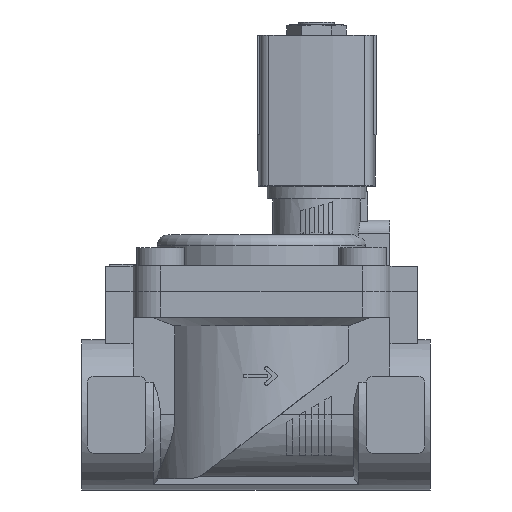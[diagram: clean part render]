
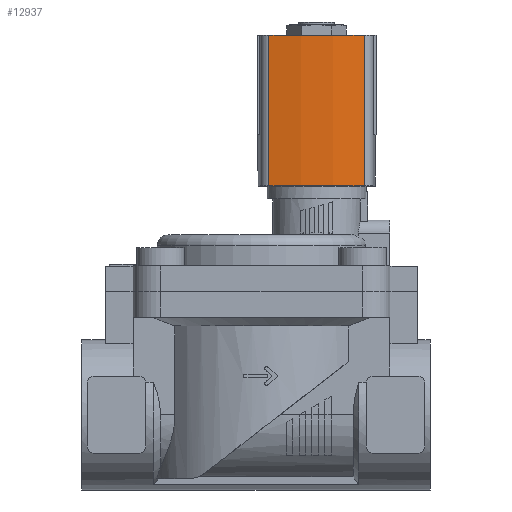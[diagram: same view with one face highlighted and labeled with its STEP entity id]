
A CAD part, top view. The second image highlights one B-rep face of the part: STEP entity #12937.
In plain terms, the highlighted cylindrical face has radius 60 mm (diameter 120 mm), a partial arc.
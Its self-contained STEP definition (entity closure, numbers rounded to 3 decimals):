
#1625=LINE('',#19795,#2747);
#1626=LINE('',#19799,#2748);
#2747=VECTOR('',#16381,1000.);
#2748=VECTOR('',#16386,1000.);
#5186=ORIENTED_EDGE('',*,*,#7240,.T.);
#5187=ORIENTED_EDGE('',*,*,#7241,.F.);
#5188=ORIENTED_EDGE('',*,*,#6526,.F.);
#5189=ORIENTED_EDGE('',*,*,#7239,.T.);
#6526=EDGE_CURVE('',#7813,#7814,#8545,.T.);
#7239=EDGE_CURVE('',#7813,#8319,#1625,.T.);
#7240=EDGE_CURVE('',#8319,#8320,#8639,.T.);
#7241=EDGE_CURVE('',#7814,#8320,#1626,.T.);
#7813=VERTEX_POINT('',#18449);
#7814=VERTEX_POINT('',#18451);
#8319=VERTEX_POINT('',#19794);
#8320=VERTEX_POINT('',#19798);
#8545=CIRCLE('',#13580,60.);
#8639=CIRCLE('',#13801,60.);
#9072=EDGE_LOOP('',(#5186,#5187,#5188,#5189));
#9660=FACE_BOUND('',#9072,.T.);
#9911=CYLINDRICAL_SURFACE('',#13800,60.);
#12937=ADVANCED_FACE('',(#9660),#9911,.T.);
#13580=AXIS2_PLACEMENT_3D('',#18450,#15322,#15323);
#13800=AXIS2_PLACEMENT_3D('',#19796,#16382,#16383);
#13801=AXIS2_PLACEMENT_3D('',#19797,#16384,#16385);
#15322=DIRECTION('',(0.,1.,0.));
#15323=DIRECTION('',(1.,0.,0.));
#16381=DIRECTION('',(0.,-1.,0.));
#16382=DIRECTION('',(0.,-1.,0.));
#16383=DIRECTION('',(0.,0.,-1.));
#16384=DIRECTION('',(0.,1.,0.));
#16385=DIRECTION('',(1.,0.,0.));
#16386=DIRECTION('',(0.,-1.,0.));
#18449=CARTESIAN_POINT('',(19.078,15.,12.986));
#18450=CARTESIAN_POINT('',(-39.5,15.,0.));
#18451=CARTESIAN_POINT('',(19.078,15.,-12.986));
#19794=CARTESIAN_POINT('',(19.078,-26.,12.986));
#19795=CARTESIAN_POINT('',(19.078,15.,12.986));
#19796=CARTESIAN_POINT('',(-39.5,15.,0.));
#19797=CARTESIAN_POINT('',(-39.5,-26.,0.));
#19798=CARTESIAN_POINT('',(19.078,-26.,-12.986));
#19799=CARTESIAN_POINT('',(19.078,15.,-12.986));
